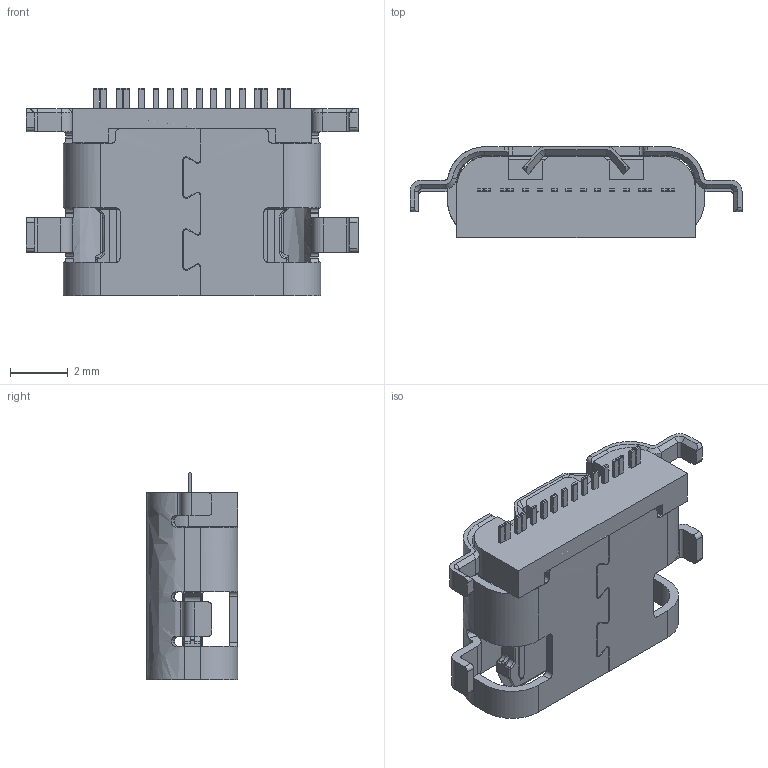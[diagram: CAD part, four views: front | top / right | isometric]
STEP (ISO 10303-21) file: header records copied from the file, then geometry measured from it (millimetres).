
FILE_DESCRIPTION (( 'STEP AP203' ), '1' );
FILE_NAME ('U5090-16PN1.6C6.5L.STEP', '2026-09-08T06:27:13', ( '' ), ( '' ), 'SwSTEP 2.0', 'SolidWorks 2024', '' );
FILE_SCHEMA (( 'CONFIG_CONTROL_DESIGN' ));
Length unit declared in the file: millimetre
Products named in the file (1): U5090-16PN1.6C6.5L
Bounding box: 11.54 x 3.19 x 7.2 mm (x, y, z)
Volume: 97.5 mm3; surface area: 430.9 mm2
Topology: 5 solids, 5 shells, 733 faces, 2054 edges, 1344 vertices
Faces by surface type: plane 511, bspline 222
Entity records: 27758 total; most frequent: CARTESIAN_POINT 11463, ORIENTED_EDGE 4100, DIRECTION 2238, EDGE_CURVE 2050, VERTEX_POINT 1344, VECTOR 1116, LINE 1116, B_SPLINE_CURVE_WITH_KNOTS 831
